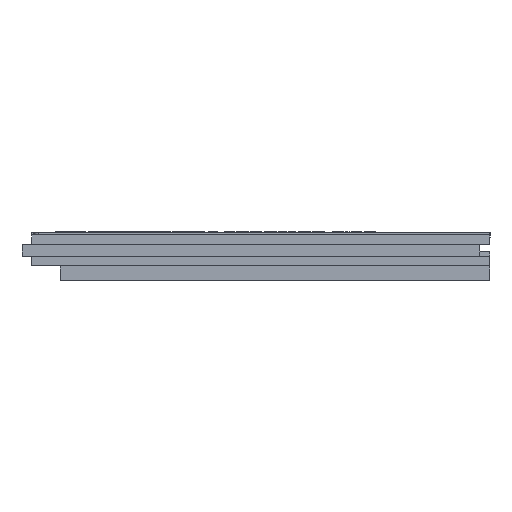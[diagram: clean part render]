
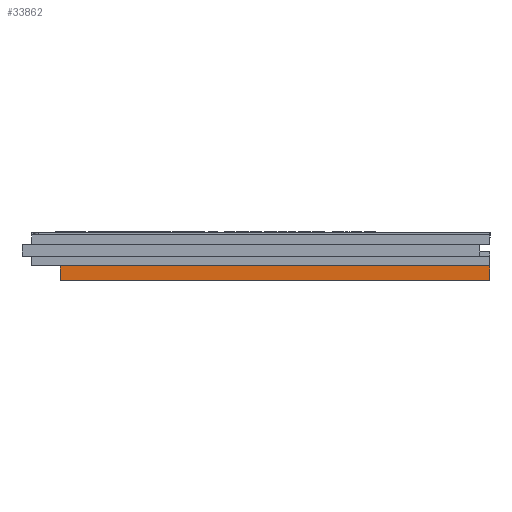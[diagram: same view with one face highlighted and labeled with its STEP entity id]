
A CAD part, left-side view. The second image highlights one B-rep face of the part: STEP entity #33862.
In plain terms, the highlighted planar face has unit normal (-1, 0, 0).
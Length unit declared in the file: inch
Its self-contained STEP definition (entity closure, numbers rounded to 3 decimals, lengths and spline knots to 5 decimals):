
#133 = DIRECTION ( 'NONE',  ( 1., 0., 0. ) ) ;
#950 = DIRECTION ( 'NONE',  ( 0., 0., -1. ) ) ;
#1240 = ORIENTED_EDGE ( 'NONE', *, *, #34321, .T. ) ;
#1866 = EDGE_CURVE ( 'NONE', #43853, #4384, #27970, .T. ) ;
#2611 = EDGE_LOOP ( 'NONE', ( #1240, #41793, #77155, #97012 ) ) ;
#3381 = AXIS2_PLACEMENT_3D ( 'NONE', #34243, #133, #25457 ) ;
#4098 = LINE ( 'NONE', #88310, #43894 ) ;
#4384 = VERTEX_POINT ( 'NONE', #60136 ) ;
#7308 = PLANE ( 'NONE',  #3381 ) ;
#7559 = LINE ( 'NONE', #66991, #21721 ) ;
#13674 = VECTOR ( 'NONE', #94092, 39.37008 ) ;
#21721 = VECTOR ( 'NONE', #950, 39.37008 ) ;
#25457 = DIRECTION ( 'NONE',  ( 0., 0., -1. ) ) ;
#26387 = LINE ( 'NONE', #92452, #13674 ) ;
#27970 = LINE ( 'NONE', #51749, #85149 ) ;
#33862 = ADVANCED_FACE ( 'NONE', ( #82725 ), #7308, .F. ) ;
#34243 = CARTESIAN_POINT ( 'NONE',  ( -23.625, -12., -1.25 ) ) ;
#34321 = EDGE_CURVE ( 'NONE', #4384, #65779, #4098, .T. ) ;
#40759 = EDGE_CURVE ( 'NONE', #43853, #66221, #7559, .T. ) ;
#41793 = ORIENTED_EDGE ( 'NONE', *, *, #70960, .F. ) ;
#43853 = VERTEX_POINT ( 'NONE', #77334 ) ;
#43894 = VECTOR ( 'NONE', #61906, 39.37008 ) ;
#51749 = CARTESIAN_POINT ( 'NONE',  ( -23.625, -12., -0.5 ) ) ;
#60136 = CARTESIAN_POINT ( 'NONE',  ( -23.625, 10.5, -0.5 ) ) ;
#61906 = DIRECTION ( 'NONE',  ( 0., 0., -1. ) ) ;
#65779 = VERTEX_POINT ( 'NONE', #83984 ) ;
#66221 = VERTEX_POINT ( 'NONE', #102614 ) ;
#66991 = CARTESIAN_POINT ( 'NONE',  ( -23.625, -12., -1.25 ) ) ;
#70960 = EDGE_CURVE ( 'NONE', #66221, #65779, #26387, .T. ) ;
#77155 = ORIENTED_EDGE ( 'NONE', *, *, #40759, .F. ) ;
#77334 = CARTESIAN_POINT ( 'NONE',  ( -23.625, -12., -0.5 ) ) ;
#82725 = FACE_OUTER_BOUND ( 'NONE', #2611, .T. ) ;
#83984 = CARTESIAN_POINT ( 'NONE',  ( -23.625, 10.5, -1.25 ) ) ;
#85149 = VECTOR ( 'NONE', #94079, 39.37008 ) ;
#88310 = CARTESIAN_POINT ( 'NONE',  ( -23.625, 10.5, -1.25 ) ) ;
#92452 = CARTESIAN_POINT ( 'NONE',  ( -23.625, -12., -1.25 ) ) ;
#94079 = DIRECTION ( 'NONE',  ( 0., 1., 0. ) ) ;
#94092 = DIRECTION ( 'NONE',  ( 0., 1., 0. ) ) ;
#97012 = ORIENTED_EDGE ( 'NONE', *, *, #1866, .T. ) ;
#102614 = CARTESIAN_POINT ( 'NONE',  ( -23.625, -12., -1.25 ) ) ;
